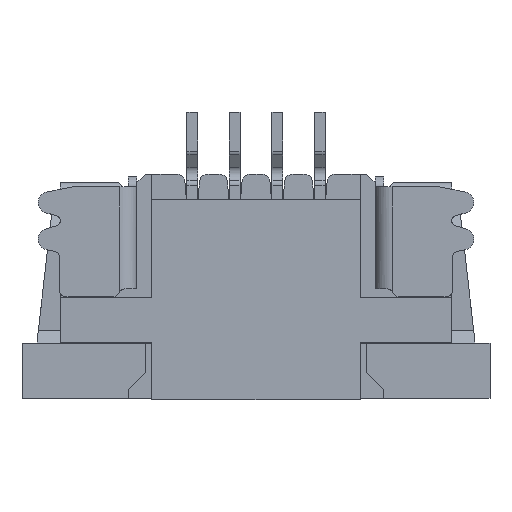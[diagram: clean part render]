
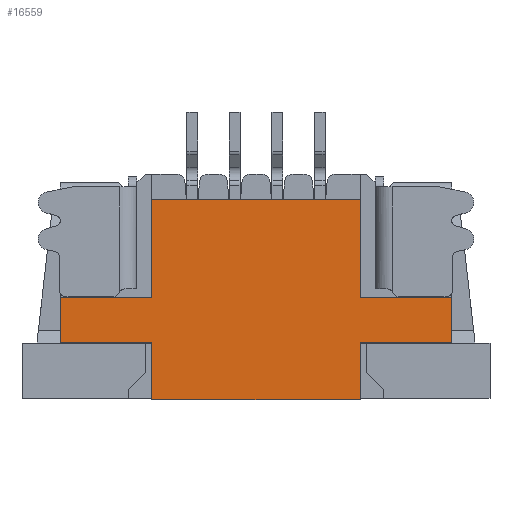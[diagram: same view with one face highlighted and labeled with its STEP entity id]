
A CAD part, top view. The second image highlights one B-rep face of the part: STEP entity #16559.
In plain terms, the highlighted planar face has unit normal (0, 0, 1).
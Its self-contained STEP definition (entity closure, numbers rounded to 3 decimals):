
#12699=DIRECTION('',(0.,-1.,0.));
#12700=VECTOR('',#12699,1.07);
#12701=CARTESIAN_POINT('',(3.6,2.4,0.));
#12702=LINE('',#12701,#12700);
#12861=DIRECTION('',(-1.,0.,0.));
#12862=VECTOR('',#12861,2.15);
#12863=CARTESIAN_POINT('',(3.6,1.33,0.));
#12864=LINE('',#12863,#12862);
#12889=DIRECTION('',(-1.,0.,0.));
#12890=VECTOR('',#12889,2.15);
#12891=CARTESIAN_POINT('',(-3.45,1.33,0.));
#12892=LINE('',#12891,#12890);
#13057=DIRECTION('',(-1.,0.,0.));
#13058=VECTOR('',#13057,4.9);
#13059=CARTESIAN_POINT('',(1.45,0.,0.));
#13060=LINE('',#13059,#13058);
#13085=DIRECTION('',(-1.,0.,0.));
#13086=VECTOR('',#13085,2.15);
#13087=CARTESIAN_POINT('',(3.6,2.4,0.));
#13088=LINE('',#13087,#13086);
#13089=DIRECTION('',(-1.,0.,0.));
#13090=VECTOR('',#13089,2.15);
#13091=CARTESIAN_POINT('',(-3.45,2.4,0.));
#13092=LINE('',#13091,#13090);
#13093=DIRECTION('',(0.,-1.,0.));
#13094=VECTOR('',#13093,2.3);
#13095=CARTESIAN_POINT('',(-3.45,4.7,0.));
#13096=LINE('',#13095,#13094);
#13097=DIRECTION('',(1.,0.,0.));
#13098=VECTOR('',#13097,4.9);
#13099=CARTESIAN_POINT('',(-3.45,4.7,0.));
#13100=LINE('',#13099,#13098);
#14136=DIRECTION('',(0.,1.,0.));
#14137=VECTOR('',#14136,1.07);
#14138=CARTESIAN_POINT('',(-5.6,1.33,0.));
#14139=LINE('',#14138,#14137);
#14431=DIRECTION('',(0.,-1.,0.));
#14432=VECTOR('',#14431,2.3);
#14433=CARTESIAN_POINT('',(1.45,4.7,0.));
#14434=LINE('',#14433,#14432);
#14481=DIRECTION('',(0.,-1.,0.));
#14482=VECTOR('',#14481,1.33);
#14483=CARTESIAN_POINT('',(1.45,1.33,0.));
#14484=LINE('',#14483,#14482);
#14565=DIRECTION('',(0.,1.,0.));
#14566=VECTOR('',#14565,1.33);
#14567=CARTESIAN_POINT('',(-3.45,0.,0.));
#14568=LINE('',#14567,#14566);
#15158=CARTESIAN_POINT('',(1.45,4.7,0.));
#15159=VERTEX_POINT('',#15158);
#15160=CARTESIAN_POINT('',(1.45,2.4,0.));
#15161=VERTEX_POINT('',#15160);
#15162=CARTESIAN_POINT('',(3.6,2.4,0.));
#15163=VERTEX_POINT('',#15162);
#15180=CARTESIAN_POINT('',(1.45,0.,0.));
#15181=VERTEX_POINT('',#15180);
#15182=CARTESIAN_POINT('',(1.45,1.33,0.));
#15183=VERTEX_POINT('',#15182);
#15184=CARTESIAN_POINT('',(3.6,1.33,0.));
#15185=VERTEX_POINT('',#15184);
#15278=CARTESIAN_POINT('',(-3.45,1.33,0.));
#15279=VERTEX_POINT('',#15278);
#15280=CARTESIAN_POINT('',(-5.6,1.33,0.));
#15281=VERTEX_POINT('',#15280);
#15298=CARTESIAN_POINT('',(-3.45,0.,0.));
#15299=VERTEX_POINT('',#15298);
#15328=CARTESIAN_POINT('',(-3.45,4.7,0.));
#15329=VERTEX_POINT('',#15328);
#15330=CARTESIAN_POINT('',(-3.45,2.4,0.));
#15331=VERTEX_POINT('',#15330);
#15332=CARTESIAN_POINT('',(-5.6,2.4,0.));
#15333=VERTEX_POINT('',#15332);
#16532=CARTESIAN_POINT('',(0.871,5.1,0.));
#16533=DIRECTION('',(0.,0.,1.));
#16534=DIRECTION('',(1.,0.,0.));
#16535=AXIS2_PLACEMENT_3D('',#16532,#16533,#16534);
#16536=PLANE('',#16535);
#16538=ORIENTED_EDGE('',*,*,#16537,.T.);
#16540=ORIENTED_EDGE('',*,*,#16539,.T.);
#16542=ORIENTED_EDGE('',*,*,#16541,.F.);
#16543=ORIENTED_EDGE('',*,*,#16025,.T.);
#16544=ORIENTED_EDGE('',*,*,#16233,.T.);
#16546=ORIENTED_EDGE('',*,*,#16545,.T.);
#16547=ORIENTED_EDGE('',*,*,#16490,.T.);
#16549=ORIENTED_EDGE('',*,*,#16548,.T.);
#16550=ORIENTED_EDGE('',*,*,#16257,.T.);
#16552=ORIENTED_EDGE('',*,*,#16551,.T.);
#16554=ORIENTED_EDGE('',*,*,#16553,.F.);
#16556=ORIENTED_EDGE('',*,*,#16555,.F.);
#16557=EDGE_LOOP('',(#16538,#16540,#16542,#16543,#16544,#16546,#16547,#16549,
#16550,#16552,#16554,#16556));
#16558=FACE_OUTER_BOUND('',#16557,.F.);
#16559=ADVANCED_FACE('',(#16558),#16536,.T.);
#16025=EDGE_CURVE('',#15163,#15185,#12702,.T.);
#16233=EDGE_CURVE('',#15185,#15183,#12864,.T.);
#16257=EDGE_CURVE('',#15279,#15281,#12892,.T.);
#16490=EDGE_CURVE('',#15181,#15299,#13060,.T.);
#16537=EDGE_CURVE('',#15329,#15159,#13100,.T.);
#16539=EDGE_CURVE('',#15159,#15161,#14434,.T.);
#16541=EDGE_CURVE('',#15163,#15161,#13088,.T.);
#16545=EDGE_CURVE('',#15183,#15181,#14484,.T.);
#16548=EDGE_CURVE('',#15299,#15279,#14568,.T.);
#16551=EDGE_CURVE('',#15281,#15333,#14139,.T.);
#16553=EDGE_CURVE('',#15331,#15333,#13092,.T.);
#16555=EDGE_CURVE('',#15329,#15331,#13096,.T.);
